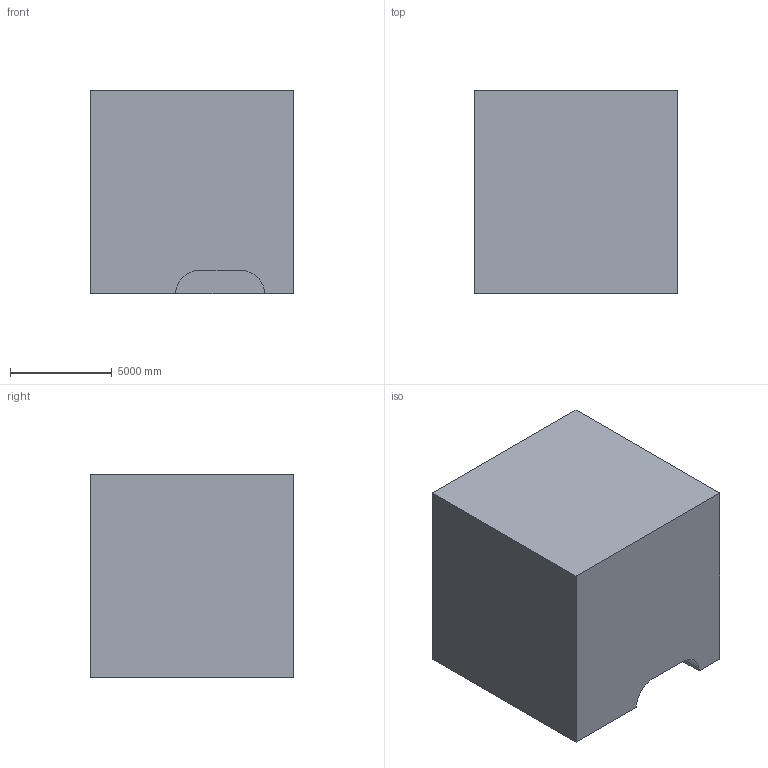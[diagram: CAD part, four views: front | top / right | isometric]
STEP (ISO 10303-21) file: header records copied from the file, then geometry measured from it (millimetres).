
FILE_DESCRIPTION (( 'STEP AP203' ), '1' );
FILE_NAME ('262.STEP', '2022-07-28T14:08:22', ( 'user' ), ( '' ), 'SwSTEP 2.0', 'SolidWorks 2021', '' );
FILE_SCHEMA (( 'CONFIG_CONTROL_DESIGN' ));
Length unit declared in the file: centimetre
Products named in the file (1): 262
Bounding box: 10000 x 10000 x 10000 mm (x, y, z)
Volume: 968211313636.3 mm3; surface area: 610782257.1 mm2
Topology: 1 solids, 1 shells, 16 faces, 39 edges, 26 vertices
Faces by surface type: plane 13, cylinder 3
Entity records: 546 total; most frequent: CARTESIAN_POINT 82, DIRECTION 79, ORIENTED_EDGE 78, EDGE_CURVE 39, LINE 33, VECTOR 33, VERTEX_POINT 26, AXIS2_PLACEMENT_3D 23
